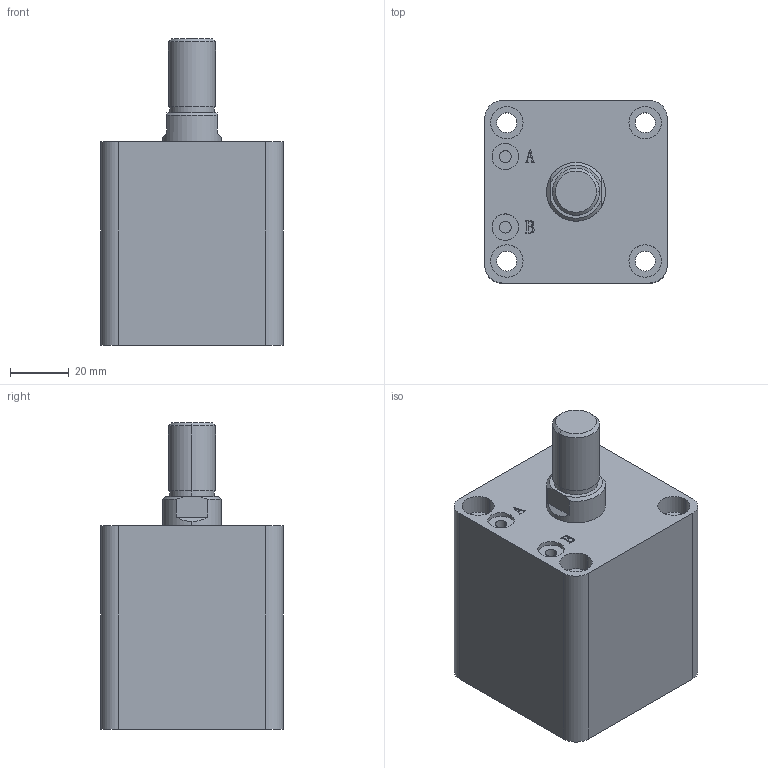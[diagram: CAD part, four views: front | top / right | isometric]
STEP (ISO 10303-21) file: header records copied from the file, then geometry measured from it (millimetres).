
FILE_DESCRIPTION (( 'STEP AP203' ), '1' );
FILE_NAME ('HTB-SDMA32-15W.STEP', '2019-10-07T11:38:38', ( '微软用户' ), ( '微软中国' ), 'SwSTEP 2.0', 'SolidWorks 2012', '' );
FILE_SCHEMA (( 'CONFIG_CONTROL_DESIGN' ));
Length unit declared in the file: millimetre
Products named in the file (3): HTB-SDMA32-15W; HTB-SDMA32-15W活塞杆; HTB-SDMA32-15掛极
Assembly tree (2 placements, depth 2):
  HTB-SDMA32-15W
    HTB-SDMA32-15掛极
    HTB-SDMA32-15W活塞杆
Bounding box: 62 x 62 x 104 mm (x, y, z)
Volume: 250111.9 mm3; surface area: 44449.2 mm2
Topology: 2 solids, 2 shells, 141 faces, 337 edges, 222 vertices
Faces by surface type: plane 67, cylinder 48, bspline 16, torus 6, cone 4
Entity records: 5176 total; most frequent: CARTESIAN_POINT 1593, ORIENTED_EDGE 674, DIRECTION 669, EDGE_CURVE 337, AXIS2_PLACEMENT_3D 242, VERTEX_POINT 222, LINE 185, VECTOR 185
